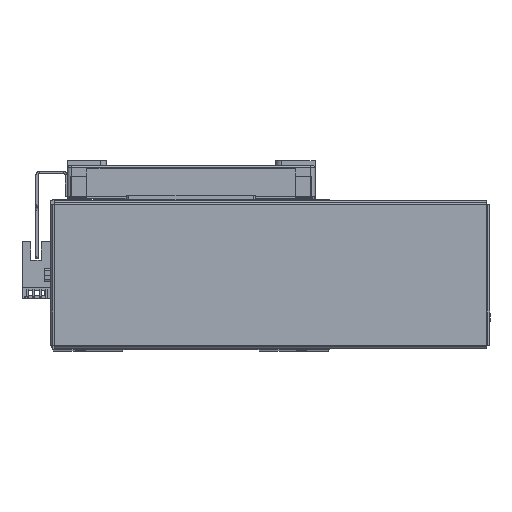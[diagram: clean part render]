
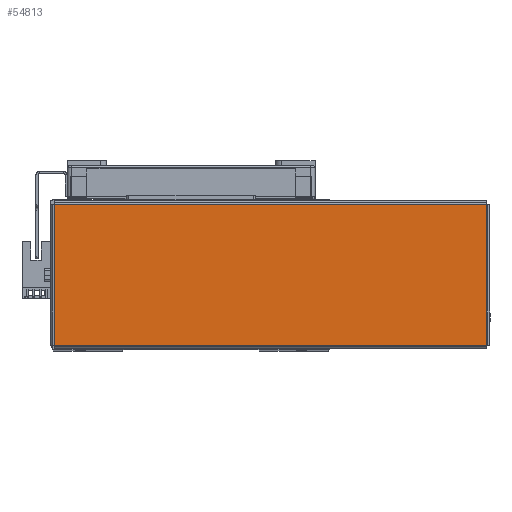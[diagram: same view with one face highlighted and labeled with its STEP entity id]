
A CAD part, top view. The second image highlights one B-rep face of the part: STEP entity #54813.
In plain terms, the highlighted planar face has unit normal (0, 0, 1) as drawn and (0, -1, 0) by its records, which use the part's own axes.
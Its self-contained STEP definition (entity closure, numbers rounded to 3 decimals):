
#610 = AXIS2_PLACEMENT_3D ( 'NONE', #36407, #36377, #36397 ) ;
#16427 = ORIENTED_EDGE ( 'NONE', *, *, #41105, .T. ) ;
#16431 = ORIENTED_EDGE ( 'NONE', *, *, #41069, .T. ) ;
#16442 = ORIENTED_EDGE ( 'NONE', *, *, #43803, .T. ) ;
#16537 = ORIENTED_EDGE ( 'NONE', *, *, #41100, .T. ) ;
#17188 = DIRECTION ( 'NONE',  ( 0., 0., -1. ) ) ;
#17215 = CARTESIAN_POINT ( 'NONE',  ( -103.763, -1., 33.793 ) ) ;
#18140 = CARTESIAN_POINT ( 'NONE',  ( 103.793, -1., 33.763 ) ) ;
#18141 = DIRECTION ( 'NONE',  ( -1., 0., 0. ) ) ;
#18212 = CARTESIAN_POINT ( 'NONE',  ( 103.763, -1., -33.793 ) ) ;
#18240 = DIRECTION ( 'NONE',  ( 0., 0., 1. ) ) ;
#18931 = LINE ( 'NONE', #18140, #19011 ) ;
#19011 = VECTOR ( 'NONE', #18141, 1000. ) ;
#19037 = VECTOR ( 'NONE', #18240, 1000. ) ;
#19043 = LINE ( 'NONE', #18212, #19037 ) ;
#19049 = LINE ( 'NONE', #17215, #19101 ) ;
#19101 = VECTOR ( 'NONE', #17188, 1000. ) ;
#19755 = LINE ( 'NONE', #59091, #19759 ) ;
#19759 = VECTOR ( 'NONE', #59112, 1000. ) ;
#26103 = FACE_OUTER_BOUND ( 'NONE', #54912, .T. ) ;
#36371 = PLANE ( 'NONE',  #610 ) ;
#36377 = DIRECTION ( 'NONE',  ( 0., 1., 0. ) ) ;
#36397 = DIRECTION ( 'NONE',  ( 0., 0., 1. ) ) ;
#36407 = CARTESIAN_POINT ( 'NONE',  ( 0., -1., 0. ) ) ;
#40443 = VERTEX_POINT ( 'NONE', #50575 ) ;
#40470 = VERTEX_POINT ( 'NONE', #50563 ) ;
#41069 = EDGE_CURVE ( 'NONE', #41375, #57026, #18931, .T. ) ;
#41100 = EDGE_CURVE ( 'NONE', #40470, #41375, #19043, .T. ) ;
#41105 = EDGE_CURVE ( 'NONE', #57026, #40443, #19049, .T. ) ;
#41375 = VERTEX_POINT ( 'NONE', #58269 ) ;
#43803 = EDGE_CURVE ( 'NONE', #40443, #40470, #19755, .T. ) ;
#49278 = CARTESIAN_POINT ( 'NONE',  ( -103.763, -1., 33.763 ) ) ;
#50563 = CARTESIAN_POINT ( 'NONE',  ( 103.763, -1., -33.763 ) ) ;
#50575 = CARTESIAN_POINT ( 'NONE',  ( -103.763, -1., -33.763 ) ) ;
#54813 = ADVANCED_FACE ( 'NONE', ( #26103 ), #36371, .F. ) ;
#54912 = EDGE_LOOP ( 'NONE', ( #16431, #16427, #16442, #16537 ) ) ;
#57026 = VERTEX_POINT ( 'NONE', #49278 ) ;
#58269 = CARTESIAN_POINT ( 'NONE',  ( 103.763, -1., 33.763 ) ) ;
#59091 = CARTESIAN_POINT ( 'NONE',  ( -103.793, -1., -33.763 ) ) ;
#59112 = DIRECTION ( 'NONE',  ( 1., 0., 0. ) ) ;
